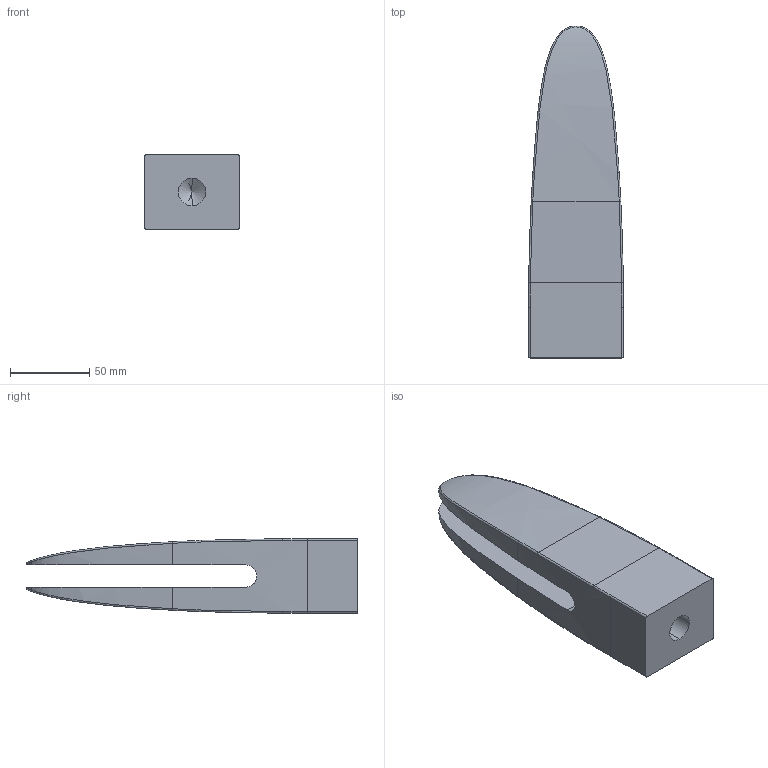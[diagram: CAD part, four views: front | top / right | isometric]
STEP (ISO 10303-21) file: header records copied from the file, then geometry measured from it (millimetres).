
FILE_DESCRIPTION (( 'STEP AP214' ), '1' );
FILE_NAME ('pince.STEP', '2016-07-11T14:00:15', ( '' ), ( '' ), 'SwSTEP 2.0', 'SolidWorks 2016', '' );
FILE_SCHEMA (( 'AUTOMOTIVE_DESIGN' ));
Length unit declared in the file: millimetre
Products named in the file (1): pince
Bounding box: 60 x 209.69 x 47 mm (x, y, z)
Volume: 351515.3 mm3; surface area: 54913 mm2
Topology: 1 solids, 1 shells, 47 faces, 113 edges, 67 vertices
Faces by surface type: bspline 20, cylinder 14, plane 7, torus 4, cone 2
Entity records: 2243 total; most frequent: CARTESIAN_POINT 1230, ORIENTED_EDGE 222, DIRECTION 173, EDGE_CURVE 111, AXIS2_PLACEMENT_3D 70, VERTEX_POINT 67, EDGE_LOOP 48, FACE_OUTER_BOUND 47
